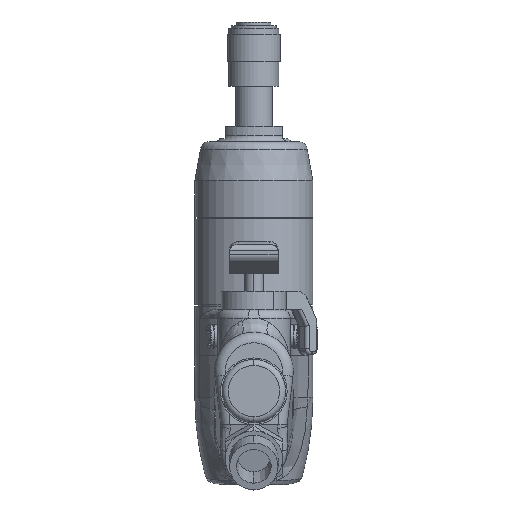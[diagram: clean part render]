
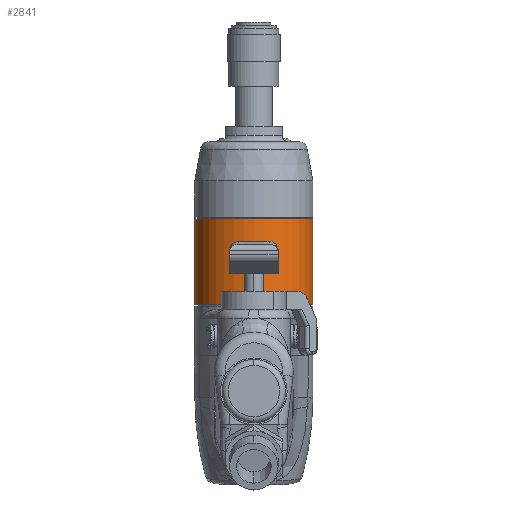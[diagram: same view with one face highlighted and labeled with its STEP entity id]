
A CAD part, front view. The second image highlights one B-rep face of the part: STEP entity #2841.
In plain terms, the highlighted cylindrical face has radius 19.5 mm (diameter 39 mm), a partial arc.
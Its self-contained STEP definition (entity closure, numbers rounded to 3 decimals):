
#2573 = VERTEX_POINT ( 'NONE', #12614 ) ;
#2576 = VERTEX_POINT ( 'NONE', #12608 ) ;
#2578 = EDGE_CURVE ( 'NONE', #2654, #2576, #12607, .T. ) ;
#2654 = VERTEX_POINT ( 'NONE', #12766 ) ;
#2655 = VERTEX_POINT ( 'NONE', #12765 ) ;
#2657 = EDGE_CURVE ( 'NONE', #2655, #2573, #12764, .T. ) ;
#2715 = EDGE_CURVE ( 'NONE', #2655, #2654, #12907, .T. ) ;
#2820 = ORIENTED_EDGE ( 'NONE', *, *, #2657, .F. ) ;
#2821 = ORIENTED_EDGE ( 'NONE', *, *, #2715, .T. ) ;
#2822 = ORIENTED_EDGE ( 'NONE', *, *, #2578, .T. ) ;
#2823 = ORIENTED_EDGE ( 'NONE', *, *, #2840, .F. ) ;
#2840 = EDGE_CURVE ( 'NONE', #2573, #2576, #13094, .T. ) ;
#2841 = ADVANCED_FACE ( 'NONE', ( #13089 ), #13088, .T. ) ;
#2842 = EDGE_LOOP ( 'NONE', ( #2820, #2821, #2822, #2823 ) ) ;
#12604 = DIRECTION ( 'NONE',  ( 0., 0., 1. ) ) ;
#12605 = VECTOR ( 'NONE', #12604, 1000. ) ;
#12606 = CARTESIAN_POINT ( 'NONE',  ( 19.5, 0., 12.52 ) ) ;
#12607 = LINE ( 'NONE', #12606, #12605 ) ;
#12608 = CARTESIAN_POINT ( 'NONE',  ( 19.5, 0., -30.5 ) ) ;
#12614 = CARTESIAN_POINT ( 'NONE',  ( -19.5, 0., -30.5 ) ) ;
#12761 = DIRECTION ( 'NONE',  ( 0., 0., 1. ) ) ;
#12762 = VECTOR ( 'NONE', #12761, 1000. ) ;
#12763 = CARTESIAN_POINT ( 'NONE',  ( -19.5, 0., 12.52 ) ) ;
#12764 = LINE ( 'NONE', #12763, #12762 ) ;
#12765 = CARTESIAN_POINT ( 'NONE',  ( -19.5, 0., -59. ) ) ;
#12766 = CARTESIAN_POINT ( 'NONE',  ( 19.5, 0., -59. ) ) ;
#12903 = DIRECTION ( 'NONE',  ( 1., 0., 0. ) ) ;
#12904 = DIRECTION ( 'NONE',  ( 0., 0., 1. ) ) ;
#12905 = CARTESIAN_POINT ( 'NONE',  ( 0., 0., -59. ) ) ;
#12906 = AXIS2_PLACEMENT_3D ( 'NONE', #12905, #12904, #12903 ) ;
#12907 = CIRCLE ( 'NONE', #12906, 19.5 ) ;
#13083 = DIRECTION ( 'NONE',  ( 1., 0., 0. ) ) ;
#13084 = DIRECTION ( 'NONE',  ( 0., 0., 1. ) ) ;
#13085 = CARTESIAN_POINT ( 'NONE',  ( 0., 0., 12.52 ) ) ;
#13086 = AXIS2_PLACEMENT_3D ( 'NONE', #13085, #13084, #13083 ) ;
#13088 = CYLINDRICAL_SURFACE ( 'NONE', #13086, 19.5 ) ;
#13089 = FACE_OUTER_BOUND ( 'NONE', #2842, .T. ) ;
#13090 = DIRECTION ( 'NONE',  ( 1., 0., 0. ) ) ;
#13091 = DIRECTION ( 'NONE',  ( 0., 0., 1. ) ) ;
#13092 = CARTESIAN_POINT ( 'NONE',  ( 0., 0., -30.5 ) ) ;
#13093 = AXIS2_PLACEMENT_3D ( 'NONE', #13092, #13091, #13090 ) ;
#13094 = CIRCLE ( 'NONE', #13093, 19.5 ) ;
